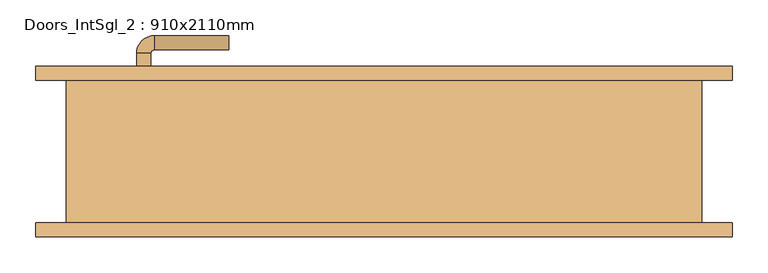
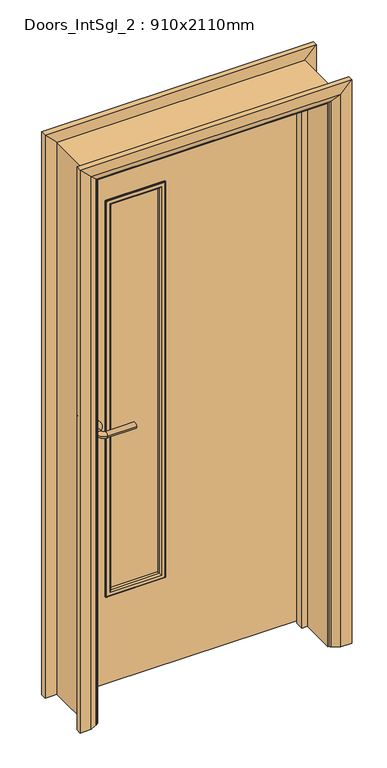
"""IFC4 building model written with IfcOpenShell, lengths in millimetres: door geometry, Doors_IntSgl_2 : 910x2110mm."""

from ifc_helpers import new_model, si_unit, point, frame, frame_2d, origin, place, context, project, spatial, polyline, circle_curve, ellipse_curve, trimmed, segment, composite_curve, outline, extrude, faceted_brep, source, transform, mapped, element, save
from ifc_brep_helpers import plane_surface, cylinder_surface, revolved_surface, advanced_brep


def doors_intsgl_2_910x2110mm_8edc93dc(model_context):
    return source(origin(), model_context, "Body", "SolidModel", [
        advanced_brep(
        [(-348.0, 54.0, 1000.0), (-328.0, 54.0, 1000.0), (-328.0, 24.0, 1000.0), (-348.0, 24.0, 1000.0), (-323.0, 19.0, 1000.0), (-323.0, -1.0, 1000.0), (-218.0, -1.0, 1000.0), (-218.0, 19.0, 1000.0)],
        [
            (0, 1, circle_curve(frame((-338.0, 54.0, 1000.0), z_axis=(0.0, 1.0, 0.0), x_axis=(1.0, 0.0, 0.0)), 10.0)),
            (1, 0, circle_curve(frame((-338.0, 54.0, 1000.0), z_axis=(0.0, 1.0, 0.0), x_axis=(1.0, 0.0, 0.0)), 10.0)),
            (1, 2),
            (2, 3, circle_curve(frame((-338.0, 24.0, 1000.0), z_axis=(0.0, 1.0, 0.0), x_axis=(1.0, 0.0, 0.0)), 10.0)),
            (3, 0),
            (3, 2, circle_curve(frame((-338.0, 24.0, 1000.0), z_axis=(0.0, 1.0, 0.0), x_axis=(1.0, 0.0, 0.0)), 10.0)),
            (4, 5, circle_curve(frame((-323.0, 9.0, 1000.0), z_axis=(-1.0, 0.0, 0.0), x_axis=(0.0, 1.0, 0.0)), 10.0)),
            (5, 3, circle_curve(frame((-323.0, 24.0, 1000.0), z_axis=(0.0, 0.0, -1.0), x_axis=(-1.0, 0.0, 0.0)), 25.0)),
            (2, 4, circle_curve(frame((-323.0, 24.0, 1000.0), z_axis=(0.0, 0.0, 1.0), x_axis=(-1.0, 0.0, 0.0)), 5.0)),
            (5, 4, circle_curve(frame((-323.0, 9.0, 1000.0), z_axis=(-1.0, 0.0, 0.0), x_axis=(0.0, 1.0, 0.0)), 10.0)),
            (6, 7, circle_curve(frame((-218.0, 9.0, 1000.0), z_axis=(1.0, 0.0, 0.0), x_axis=(0.0, 1.0, 0.0)), 10.0)),
            (7, 6, circle_curve(frame((-218.0, 9.0, 1000.0), z_axis=(1.0, 0.0, 0.0), x_axis=(0.0, 1.0, 0.0)), 10.0)),
            (4, 7),
            (6, 5),
        ],
        [
            plane_surface(frame((-338.0, 54.0, 1000.0), z_axis=(0.0, 1.0, 0.0), x_axis=(0.0, 0.0, 1.0))),
            cylinder_surface(frame((-338.0, 54.0, 1000.0), z_axis=(0.0, 1.0, 0.0), x_axis=(1.0, 0.0, 0.0)), 10.0),
            revolved_surface(trimmed(ellipse_curve(frame((-338.0, 24.0, 1000.0), z_axis=(0.0, -1.0, 0.0), x_axis=(1.0, 0.0, 0.0)), 10.0, 10.0), [point((-348.0, 24.0, 1000.0))], [point((-328.0, 24.0, 1000.0))], True, "CARTESIAN"), (-323.0, 24.0, 1000.0), (0.0, 0.0, -1.0)),
            revolved_surface(trimmed(ellipse_curve(frame((-338.0, 24.0, 1000.0), z_axis=(0.0, -1.0, 0.0), x_axis=(1.0, 0.0, 0.0)), 10.0, 10.0), [point((-328.0, 24.0, 1000.0))], [point((-348.0, 24.0, 1000.0))], True, "CARTESIAN"), (-323.0, 24.0, 1000.0), (0.0, 0.0, -1.0)),
            plane_surface(frame((-218.0, 9.0, 1000.0), z_axis=(1.0, 0.0, 0.0), x_axis=(0.0, 0.0, 1.0))),
            cylinder_surface(frame((-323.0, 9.0, 1000.0), z_axis=(-1.0, 0.0, 0.0), x_axis=(0.0, 1.0, 0.0)), 10.0),
        ],
        [
            (0, [[1, 2]]),
            (1, [[3, 4, 5, -2]]),
            (1, [[-5, 6, -3, -1]]),
            (2, [[7, 8, -4, 9]]),
            (3, [[10, -9, -6, -8]]),
            (4, [[11, 12]]),
            (5, [[13, -11, 14, -7]]),
            (5, [[-14, -12, -13, -10]]),
        ],
    ),
        extrude(outline(composite_curve([segment(trimmed(circle_curve(frame_2d((1000.0, -340.5)), 30.0), [point((1000.0, -370.5))], [point((1000.0, -310.5))], False, "CARTESIAN"), True, "CONTINUOUS"), segment(trimmed(circle_curve(frame_2d((1000.0, -340.5)), 30.0), [point((1000.0, -310.5))], [point((1000.0, -370.5))], False, "CARTESIAN"), True, "CONTINUOUS")], self_intersect=False)), frame((0.0, 54.0, 0.0), z_axis=(0.0, 1.0, 0.0), x_axis=(0.0, 0.0, 1.0)), (0.0, 0.0, 1.0), 8.0),
        advanced_brep(
        [(-348.0, 108.0, 1000.0), (-328.0, 108.0, 1000.0), (-348.0, 138.0, 1000.0), (-328.0, 138.0, 1000.0), (-323.0, 143.0, 1000.0), (-323.0, 163.0, 1000.0), (-218.0, 163.0, 1000.0), (-218.0, 143.0, 1000.0)],
        [
            (0, 1, circle_curve(frame((-338.0, 108.0, 1000.0), z_axis=(0.0, -1.0, 0.0), x_axis=(1.0, 0.0, 0.0)), 10.0)),
            (1, 0, circle_curve(frame((-338.0, 108.0, 1000.0), z_axis=(0.0, -1.0, 0.0), x_axis=(1.0, 0.0, 0.0)), 10.0)),
            (0, 2),
            (2, 3, circle_curve(frame((-338.0, 138.0, 1000.0), z_axis=(0.0, -1.0, 0.0), x_axis=(1.0, 0.0, 0.0)), 10.0)),
            (3, 1),
            (3, 2, circle_curve(frame((-338.0, 138.0, 1000.0), z_axis=(0.0, -1.0, 0.0), x_axis=(1.0, 0.0, 0.0)), 10.0)),
            (4, 3, circle_curve(frame((-323.0, 138.0, 1000.0), z_axis=(0.0, 0.0, 1.0), x_axis=(-1.0, 0.0, 0.0)), 5.0)),
            (2, 5, circle_curve(frame((-323.0, 138.0, 1000.0), z_axis=(0.0, 0.0, -1.0), x_axis=(-1.0, 0.0, 0.0)), 25.0)),
            (5, 4, circle_curve(frame((-323.0, 153.0, 1000.0), z_axis=(-1.0, 0.0, 0.0), x_axis=(0.0, -1.0, 0.0)), 10.0)),
            (4, 5, circle_curve(frame((-323.0, 153.0, 1000.0), z_axis=(-1.0, 0.0, 0.0), x_axis=(0.0, -1.0, 0.0)), 10.0)),
            (6, 7, circle_curve(frame((-218.0, 153.0, 1000.0), z_axis=(1.0, 0.0, 0.0), x_axis=(0.0, -1.0, 0.0)), 10.0)),
            (7, 6, circle_curve(frame((-218.0, 153.0, 1000.0), z_axis=(1.0, 0.0, 0.0), x_axis=(0.0, -1.0, 0.0)), 10.0)),
            (5, 6),
            (7, 4),
        ],
        [
            plane_surface(frame((-338.0, 108.0, 1000.0), z_axis=(0.0, -1.0, 0.0), x_axis=(0.0, 0.0, 1.0))),
            cylinder_surface(frame((-338.0, 108.0, 1000.0), z_axis=(0.0, -1.0, 0.0), x_axis=(1.0, 0.0, 0.0)), 10.0),
            revolved_surface(trimmed(ellipse_curve(frame((-338.0, 138.0, 1000.0), z_axis=(0.0, -1.0, 0.0), x_axis=(1.0, 0.0, 0.0)), 10.0, 10.0), [point((-348.0, 138.0, 1000.0))], [point((-328.0, 138.0, 1000.0))], True, "CARTESIAN"), (-323.0, 138.0, 1000.0), (0.0, 0.0, -1.0)),
            revolved_surface(trimmed(ellipse_curve(frame((-338.0, 138.0, 1000.0), z_axis=(0.0, -1.0, 0.0), x_axis=(1.0, 0.0, 0.0)), 10.0, 10.0), [point((-328.0, 138.0, 1000.0))], [point((-348.0, 138.0, 1000.0))], True, "CARTESIAN"), (-323.0, 138.0, 1000.0), (0.0, 0.0, -1.0)),
            plane_surface(frame((-218.0, 153.0, 1000.0), z_axis=(1.0, 0.0, 0.0), x_axis=(0.0, 0.0, 1.0))),
            cylinder_surface(frame((-323.0, 153.0, 1000.0), z_axis=(-1.0, 0.0, 0.0), x_axis=(0.0, -1.0, 0.0)), 10.0),
        ],
        [
            (0, [[1, 2]]),
            (1, [[-1, 3, 4, 5]]),
            (1, [[-2, -5, 6, -3]]),
            (2, [[7, -4, 8, 9]]),
            (3, [[-8, -6, -7, 10]]),
            (4, [[11, 12]]),
            (5, [[-9, 13, -12, 14]]),
            (5, [[-10, -14, -11, -13]]),
        ],
    ),
        extrude(outline(composite_curve([segment(trimmed(circle_curve(frame_2d((1000.0, -340.5)), 30.0), [point((1000.0, -370.5))], [point((1000.0, -310.5))], False, "CARTESIAN"), True, "CONTINUOUS"), segment(trimmed(circle_curve(frame_2d((1000.0, -340.5)), 30.0), [point((1000.0, -310.5))], [point((1000.0, -370.5))], False, "CARTESIAN"), True, "CONTINUOUS")], self_intersect=False)), frame((0.0, 100.0, 0.0), z_axis=(0.0, 1.0, 0.0), x_axis=(0.0, 0.0, 1.0)), (0.0, 0.0, 1.0), 8.0),
        extrude(outline(polyline([(2068.0, -413.0), (8.0, -413.0), (8.0, 413.0), (2068.0, 413.0), (2068.0, -413.0)]), holes=[polyline([(1843.0, -88.0), (350.0, -88.0), (350.0, -288.0), (1843.0, -288.0), (1843.0, -88.0)])]), frame((0.0, 62.0, 0.0), z_axis=(0.0, 1.0, 0.0), x_axis=(0.0, 0.0, 1.0)), (0.0, 0.0, 1.0), 38.0),
        extrude(outline(polyline([(0.0, -415.0), (0.0, -396.0), (2051.0, -396.0), (2051.0, 396.0), (0.0, 396.0), (0.0, 415.0), (2070.0, 415.0), (2070.0, -415.0), (0.0, -415.0)])), frame((0.0, 28.0, 0.0), z_axis=(0.0, 1.0, 0.0), x_axis=(0.0, 0.0, 1.0)), (0.0, 0.0, 1.0), 32.0),
        advanced_brep(
        [(-490.0, 120.0, 0.0), (-450.0, 120.0, 0.0), (-424.0, 106.0, 0.0), (-420.0, 100.0, 0.0), (-490.0, 100.0, 0.0), (-490.0, 120.0, 2145.0), (-450.0, 120.0, 2105.0), (-424.0, 106.0, 2079.0), (-420.0, 100.0, 2075.0), (-490.0, 100.0, 2145.0), (490.0, 120.0, 0.0), (490.0, 100.0, 0.0), (420.0, 100.0, 0.0), (424.0, 106.0, 0.0), (450.0, 120.0, 0.0), (490.0, 120.0, 2145.0), (490.0, 100.0, 2145.0), (420.0, 100.0, 2075.0), (424.0, 106.0, 2079.0), (450.0, 120.0, 2105.0)],
        [
            (0, 1),
            (1, 2),
            (2, 3, circle_curve(frame((-428.0, 99.0, 0.0), z_axis=(0.0, 0.0, -1.0), x_axis=(-1.0, 0.0, 0.0)), 8.0622577)),
            (3, 4),
            (4, 0),
            (0, 5),
            (5, 6),
            (6, 1),
            (6, 7),
            (7, 2),
            (7, 8, ellipse_curve(frame((-428.0, 99.0, 2083.0), z_axis=(-0.7071067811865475, 0.0, -0.7071067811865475), x_axis=(0.7071067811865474, 0.0, -0.7071067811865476)), 11.4017543, 8.0622577)),
            (8, 3),
            (8, 9),
            (9, 4),
            (9, 5),
            (10, 11),
            (11, 12),
            (12, 13, circle_curve(frame((428.0, 99.0, 0.0), z_axis=(0.0, 0.0, -1.0), x_axis=(1.0, 0.0, 0.0)), 8.0622577)),
            (13, 14),
            (14, 10),
            (15, 16),
            (16, 11),
            (10, 15),
            (16, 17),
            (17, 12),
            (17, 18, ellipse_curve(frame((428.0, 99.0, 2083.0), z_axis=(0.7071067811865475, 0.0, -0.7071067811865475), x_axis=(0.7071067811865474, 0.0, 0.7071067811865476)), 11.4017543, 8.0622577)),
            (18, 13),
            (18, 19),
            (19, 14),
            (19, 15),
            (5, 15),
            (19, 6),
            (18, 7),
            (17, 8),
            (16, 9),
        ],
        [
            plane_surface(frame((-420.0, 27.1989011, 0.0), z_axis=(0.0, 0.0, -1.0), x_axis=(1.0, 0.0, 0.0))),
            plane_surface(frame((-490.0, 120.0, 0.0), z_axis=(0.0, 1.0, 0.0), x_axis=(0.0, 0.0, 1.0))),
            plane_surface(frame((-450.0, 120.0, 0.0), z_axis=(0.4740998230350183, 0.8804710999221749, 0.0), x_axis=(0.0, 0.0, 1.0))),
            cylinder_surface(frame((-428.0, 99.0, 0.0), z_axis=(0.0, 0.0, -1.0), x_axis=(-1.0, 0.0, 0.0)), 8.0622577),
            plane_surface(frame((-420.0, 100.0, 0.0), z_axis=(0.0, -1.0, 0.0), x_axis=(0.0, 0.0, 1.0))),
            plane_surface(frame((-490.0, 100.0, 0.0), z_axis=(-1.0, 0.0, 0.0), x_axis=(0.0, 0.0, 1.0))),
            plane_surface(frame((420.0, 27.1989011, 0.0), z_axis=(0.0, 0.0, -1.0), x_axis=(-1.0, 0.0, 0.0))),
            plane_surface(frame((490.0, 100.0, 2145.0), z_axis=(1.0, 0.0, 0.0), x_axis=(0.0, 0.0, -1.0))),
            plane_surface(frame((420.0, 100.0, 2075.0), z_axis=(0.0, -1.0, 0.0), x_axis=(0.0, 0.0, -1.0))),
            cylinder_surface(frame((428.0, 99.0, 2075.0), z_axis=(0.0, 0.0, 1.0), x_axis=(1.0, 0.0, 0.0)), 8.0622577),
            plane_surface(frame((450.0, 120.0, 2105.0), z_axis=(-0.4740998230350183, 0.8804710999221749, 0.0), x_axis=(0.0, 0.0, -1.0))),
            plane_surface(frame((490.0, 120.0, 2145.0), z_axis=(0.0, 1.0, 0.0), x_axis=(0.0, 0.0, -1.0))),
            plane_surface(frame((-490.0, 120.0, 2145.0), z_axis=(0.0, 1.0, 0.0), x_axis=(1.0, 0.0, 0.0))),
            plane_surface(frame((-450.0, 120.0, 2105.0), z_axis=(0.0, 0.8804710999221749, -0.4740998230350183), x_axis=(1.0, 0.0, 0.0))),
            cylinder_surface(frame((-420.0, 99.0, 2083.0), z_axis=(-1.0, 0.0, 0.0), x_axis=(0.0, 0.0, 1.0)), 8.0622577),
            plane_surface(frame((-420.0, 100.0, 2075.0), z_axis=(0.0, -1.0, 0.0), x_axis=(1.0, 0.0, 0.0))),
            plane_surface(frame((-490.0, 100.0, 2145.0), z_axis=(0.0, 0.0, 1.0), x_axis=(1.0, 0.0, 0.0))),
        ],
        [
            (0, [[1, 2, 3, 4, 5]]),
            (1, [[-1, 6, 7, 8]]),
            (2, [[-2, -8, 9, 10]]),
            (3, [[-3, -10, 11, 12]]),
            (4, [[-4, -12, 13, 14]]),
            (5, [[-5, -14, 15, -6]]),
            (6, [[16, 17, 18, 19, 20]]),
            (7, [[21, 22, -16, 23]]),
            (8, [[24, 25, -17, -22]]),
            (9, [[26, 27, -18, -25]]),
            (10, [[28, 29, -19, -27]]),
            (11, [[30, -23, -20, -29]]),
            (12, [[-7, 31, -30, 32]]),
            (13, [[-9, -32, -28, 33]]),
            (14, [[-11, -33, -26, 34]]),
            (15, [[-13, -34, -24, 35]]),
            (16, [[-15, -35, -21, -31]]),
        ],
    ),
        advanced_brep(
        [(-490.0, -120.0, 0.0), (-490.0, -100.0, 0.0), (-420.0, -100.0, 0.0), (-424.0, -106.0, 0.0), (-450.0, -120.0, 0.0), (-490.0, -120.0, 2145.0), (-490.0, -100.0, 2145.0), (-420.0, -100.0, 2075.0), (-424.0, -106.0, 2079.0), (-450.0, -120.0, 2105.0), (490.0, -120.0, 0.0), (450.0, -120.0, 0.0), (424.0, -106.0, 0.0), (420.0, -100.0, 0.0), (490.0, -100.0, 0.0), (490.0, -120.0, 2145.0), (450.0, -120.0, 2105.0), (424.0, -106.0, 2079.0), (420.0, -100.0, 2075.0), (490.0, -100.0, 2145.0)],
        [
            (0, 1),
            (1, 2),
            (2, 3, circle_curve(frame((-428.0, -99.0, 0.0), z_axis=(0.0, 0.0, -1.0), x_axis=(-1.0, 0.0, 0.0)), 8.0622577)),
            (3, 4),
            (4, 0),
            (0, 5),
            (5, 6),
            (6, 1),
            (6, 7),
            (7, 2),
            (7, 8, ellipse_curve(frame((-428.0, -99.0, 2083.0), z_axis=(-0.7071067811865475, 0.0, -0.7071067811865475), x_axis=(0.7071067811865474, 0.0, -0.7071067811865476)), 11.4017543, 8.0622577)),
            (8, 3),
            (8, 9),
            (9, 4),
            (9, 5),
            (10, 11),
            (11, 12),
            (12, 13, circle_curve(frame((428.0, -99.0, 0.0), z_axis=(0.0, 0.0, -1.0), x_axis=(1.0, 0.0, 0.0)), 8.0622577)),
            (13, 14),
            (14, 10),
            (15, 16),
            (16, 11),
            (10, 15),
            (16, 17),
            (17, 12),
            (17, 18, ellipse_curve(frame((428.0, -99.0, 2083.0), z_axis=(0.7071067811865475, 0.0, -0.7071067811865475), x_axis=(0.7071067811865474, 0.0, 0.7071067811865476)), 11.4017543, 8.0622577)),
            (18, 13),
            (18, 19),
            (19, 14),
            (19, 15),
            (5, 15),
            (19, 6),
            (18, 7),
            (17, 8),
            (16, 9),
        ],
        [
            plane_surface(frame((-420.0, -172.8010989, 0.0), z_axis=(0.0, 0.0, -1.0), x_axis=(1.0, 0.0, 0.0))),
            plane_surface(frame((-490.0, -120.0, 0.0), z_axis=(-1.0, 0.0, 0.0), x_axis=(0.0, 0.0, 1.0))),
            plane_surface(frame((-490.0, -100.0, 0.0), z_axis=(0.0, 1.0, 0.0), x_axis=(0.0, 0.0, 1.0))),
            cylinder_surface(frame((-428.0, -99.0, 0.0), z_axis=(0.0, 0.0, -1.0), x_axis=(-1.0, 0.0, 0.0)), 8.0622577),
            plane_surface(frame((-424.0, -106.0, 0.0), z_axis=(0.4740998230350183, -0.8804710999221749, 0.0), x_axis=(0.0, 0.0, 1.0))),
            plane_surface(frame((-450.0, -120.0, 0.0), z_axis=(0.0, -1.0, 0.0), x_axis=(0.0, 0.0, 1.0))),
            plane_surface(frame((420.0, -172.8010989, 0.0), z_axis=(0.0, 0.0, -1.0), x_axis=(-1.0, 0.0, 0.0))),
            plane_surface(frame((450.0, -120.0, 2105.0), z_axis=(0.0, -1.0, 0.0), x_axis=(0.0, 0.0, -1.0))),
            plane_surface(frame((424.0, -106.0, 2079.0), z_axis=(-0.4740998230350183, -0.8804710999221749, 0.0), x_axis=(0.0, 0.0, -1.0))),
            cylinder_surface(frame((428.0, -99.0, 2075.0), z_axis=(0.0, 0.0, 1.0), x_axis=(1.0, 0.0, 0.0)), 8.0622577),
            plane_surface(frame((490.0, -100.0, 2145.0), z_axis=(0.0, 1.0, 0.0), x_axis=(0.0, 0.0, -1.0))),
            plane_surface(frame((490.0, -120.0, 2145.0), z_axis=(1.0, 0.0, 0.0), x_axis=(0.0, 0.0, -1.0))),
            plane_surface(frame((-490.0, -120.0, 2145.0), z_axis=(0.0, 0.0, 1.0), x_axis=(1.0, 0.0, 0.0))),
            plane_surface(frame((-490.0, -100.0, 2145.0), z_axis=(0.0, 1.0, 0.0), x_axis=(1.0, 0.0, 0.0))),
            cylinder_surface(frame((-420.0, -99.0, 2083.0), z_axis=(-1.0, 0.0, 0.0), x_axis=(0.0, 0.0, 1.0)), 8.0622577),
            plane_surface(frame((-424.0, -106.0, 2079.0), z_axis=(0.0, -0.8804710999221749, -0.4740998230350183), x_axis=(1.0, 0.0, 0.0))),
            plane_surface(frame((-450.0, -120.0, 2105.0), z_axis=(0.0, -1.0, 0.0), x_axis=(1.0, 0.0, 0.0))),
        ],
        [
            (0, [[1, 2, 3, 4, 5]]),
            (1, [[-1, 6, 7, 8]]),
            (2, [[-2, -8, 9, 10]]),
            (3, [[-3, -10, 11, 12]]),
            (4, [[-4, -12, 13, 14]]),
            (5, [[-5, -14, 15, -6]]),
            (6, [[16, 17, 18, 19, 20]]),
            (7, [[21, 22, -16, 23]]),
            (8, [[24, 25, -17, -22]]),
            (9, [[26, 27, -18, -25]]),
            (10, [[28, 29, -19, -27]]),
            (11, [[30, -23, -20, -29]]),
            (12, [[-7, 31, -30, 32]]),
            (13, [[-9, -32, -28, 33]]),
            (14, [[-11, -33, -26, 34]]),
            (15, [[-13, -34, -24, 35]]),
            (16, [[-15, -35, -21, -31]]),
        ],
    ),
        faceted_brep([(-415.0, 100.0, 0.0), (-415.0, -100.0, 0.0), (-447.0, -100.0, 0.0), (-447.0, 100.0, 0.0), (-415.0, 100.0, 2070.0), (-415.0, -100.0, 2070.0), (-447.0, -100.0, 2102.0), (-447.0, 100.0, 2102.0), (415.0, 100.0, 0.0), (447.0, 100.0, 0.0), (447.0, -100.0, 0.0), (415.0, -100.0, 0.0), (415.0, 100.0, 2070.0), (447.0, 100.0, 2102.0), (447.0, -100.0, 2102.0), (415.0, -100.0, 2070.0)], [[[0, 1, 2, 3]], [[1, 0, 4, 5]], [[2, 1, 5, 6]], [[3, 2, 6, 7]], [[0, 3, 7, 4]], [[8, 9, 10, 11]], [[12, 13, 9, 8]], [[13, 14, 10, 9]], [[14, 15, 11, 10]], [[15, 12, 8, 11]], [[5, 4, 12, 15]], [[6, 5, 15, 14]], [[7, 6, 14, 13]], [[4, 7, 13, 12]]]),
        extrude(outline(polyline([(-288.0, 90.0), (-88.0, 90.0), (-88.0, 72.0), (-288.0, 72.0), (-288.0, 90.0)])), frame((0.0, 0.0, 350.0), z_axis=(0.0, 0.0, 1.0), x_axis=(1.0, 0.0, 0.0)), (0.0, 0.0, 1.0), 1493.0),
        advanced_brep(
        [(-88.0, 72.0, 1843.0), (-88.0, 62.0, 1843.0), (-88.0, 62.0, 350.0), (-88.0, 72.0, 350.0), (-100.0, 61.0, 1831.0), (-100.0, 72.0, 1831.0), (-100.0, 72.0, 362.0), (-100.0, 61.0, 362.0), (-95.0, 56.0, 1836.0), (-95.0, 56.0, 357.0), (-80.0, 58.0, 1851.0), (-82.0, 56.0, 1849.0), (-82.0, 56.0, 344.0), (-80.0, 58.0, 342.0), (-80.0, 62.0, 1851.0), (-80.0, 62.0, 342.0), (-288.0, 62.0, 350.0), (-288.0, 72.0, 350.0), (-276.0, 72.0, 362.0), (-276.0, 61.0, 362.0), (-281.0, 56.0, 357.0), (-294.0, 56.0, 344.0), (-296.0, 58.0, 342.0), (-296.0, 62.0, 342.0), (-288.0, 62.0, 1843.0), (-288.0, 72.0, 1843.0), (-276.0, 72.0, 1831.0), (-276.0, 61.0, 1831.0), (-281.0, 56.0, 1836.0), (-294.0, 56.0, 1849.0), (-296.0, 58.0, 1851.0), (-296.0, 62.0, 1851.0)],
        [
            (0, 1),
            (1, 2),
            (2, 3),
            (3, 0),
            (4, 5),
            (5, 6),
            (6, 7),
            (7, 4),
            (8, 4, ellipse_curve(frame((-95.0, 61.0, 1836.0), z_axis=(0.7071067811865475, 0.0, -0.7071067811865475), x_axis=(0.7071067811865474, 0.0, 0.7071067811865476)), 7.0710678, 5.0)),
            (7, 9, ellipse_curve(frame((-95.0, 61.0, 357.0), z_axis=(0.7071067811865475, 0.0, 0.7071067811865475), x_axis=(-0.7071067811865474, 0.0, 0.7071067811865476)), 7.0710678, 5.0)),
            (9, 8),
            (10, 11, ellipse_curve(frame((-82.0, 58.0, 1849.0), z_axis=(0.7071067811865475, 0.0, -0.7071067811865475), x_axis=(0.7071067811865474, 0.0, 0.7071067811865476)), 2.8284271, 2.0)),
            (11, 12),
            (12, 13, ellipse_curve(frame((-82.0, 58.0, 344.0), z_axis=(0.7071067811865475, 0.0, 0.7071067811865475), x_axis=(-0.7071067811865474, 0.0, 0.7071067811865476)), 2.8284271, 2.0)),
            (13, 10),
            (14, 10),
            (13, 15),
            (15, 14),
            (2, 16),
            (16, 17),
            (17, 3),
            (6, 18),
            (18, 19),
            (19, 7),
            (19, 20, ellipse_curve(frame((-281.0, 61.0, 357.0), z_axis=(0.7071067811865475, 0.0, -0.7071067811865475), x_axis=(0.7071067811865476, 0.0, 0.7071067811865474)), 7.0710678, 5.0)),
            (20, 9),
            (12, 21),
            (21, 22, ellipse_curve(frame((-294.0, 58.0, 344.0), z_axis=(0.7071067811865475, 0.0, -0.7071067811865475), x_axis=(0.7071067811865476, 0.0, 0.7071067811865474)), 2.8284271, 2.0)),
            (22, 13),
            (22, 23),
            (23, 15),
            (16, 24),
            (24, 25),
            (25, 17),
            (18, 26),
            (26, 27),
            (27, 19),
            (27, 28, ellipse_curve(frame((-281.0, 61.0, 1836.0), z_axis=(-0.7071067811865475, 0.0, -0.7071067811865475), x_axis=(0.7071067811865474, 0.0, -0.7071067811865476)), 7.0710678, 5.0)),
            (28, 20),
            (21, 29),
            (29, 30, ellipse_curve(frame((-294.0, 58.0, 1849.0), z_axis=(-0.7071067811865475, 0.0, -0.7071067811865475), x_axis=(0.7071067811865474, 0.0, -0.7071067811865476)), 2.8284271, 2.0)),
            (30, 22),
            (30, 31),
            (31, 23),
            (31, 14),
            (1, 24),
            (0, 25),
            (5, 26),
            (4, 27),
            (8, 28),
            (11, 29),
            (10, 30),
        ],
        [
            plane_surface(frame((-88.0, 62.0, 1843.0), z_axis=(1.0, 0.0, 0.0), x_axis=(0.0, 0.0, -1.0))),
            plane_surface(frame((-100.0, 72.0, 1831.0), z_axis=(-1.0, 0.0, 0.0), x_axis=(0.0, 0.0, -1.0))),
            cylinder_surface(frame((-95.0, 61.0, 1843.0), z_axis=(0.0, 0.0, 1.0), x_axis=(1.0, 0.0, 0.0)), 5.0),
            cylinder_surface(frame((-82.0, 58.0, 1843.0), z_axis=(0.0, 0.0, 1.0), x_axis=(1.0, 0.0, 0.0)), 2.0),
            plane_surface(frame((-80.0, 58.0, 1851.0), z_axis=(1.0, 0.0, 0.0), x_axis=(0.0, 0.0, -1.0))),
            plane_surface(frame((-88.0, 62.0, 350.0), z_axis=(0.0, 0.0, -1.0), x_axis=(-1.0, 0.0, 0.0))),
            plane_surface(frame((-100.0, 72.0, 362.0), z_axis=(0.0, 0.0, 1.0), x_axis=(-1.0, 0.0, 0.0))),
            cylinder_surface(frame((-88.0, 61.0, 357.0), z_axis=(1.0, 0.0, 0.0), x_axis=(0.0, 0.0, -1.0)), 5.0),
            cylinder_surface(frame((-88.0, 58.0, 344.0), z_axis=(1.0, 0.0, 0.0), x_axis=(0.0, 0.0, -1.0)), 2.0),
            plane_surface(frame((-80.0, 58.0, 342.0), z_axis=(0.0, 0.0, -1.0), x_axis=(-1.0, 0.0, 0.0))),
            plane_surface(frame((-288.0, 62.0, 350.0), z_axis=(-1.0, 0.0, 0.0), x_axis=(0.0, 0.0, 1.0))),
            plane_surface(frame((-276.0, 72.0, 362.0), z_axis=(1.0, 0.0, 0.0), x_axis=(0.0, 0.0, 1.0))),
            cylinder_surface(frame((-281.0, 61.0, 350.0), z_axis=(0.0, 0.0, -1.0), x_axis=(-1.0, 0.0, 0.0)), 5.0),
            cylinder_surface(frame((-294.0, 58.0, 350.0), z_axis=(0.0, 0.0, -1.0), x_axis=(-1.0, 0.0, 0.0)), 2.0),
            plane_surface(frame((-296.0, 58.0, 342.0), z_axis=(-1.0, 0.0, 0.0), x_axis=(0.0, 0.0, 1.0))),
            plane_surface(frame((-296.0, 62.0, 1851.0), z_axis=(0.0, 1.0, 0.0), x_axis=(1.0, 0.0, 0.0))),
            plane_surface(frame((-288.0, 62.0, 1843.0), z_axis=(0.0, 0.0, 1.0), x_axis=(1.0, 0.0, 0.0))),
            plane_surface(frame((-288.0, 72.0, 1843.0), z_axis=(0.0, 1.0, 0.0), x_axis=(1.0, 0.0, 0.0))),
            plane_surface(frame((-276.0, 72.0, 1831.0), z_axis=(0.0, 0.0, -1.0), x_axis=(1.0, 0.0, 0.0))),
            cylinder_surface(frame((-288.0, 61.0, 1836.0), z_axis=(-1.0, 0.0, 0.0), x_axis=(0.0, 0.0, 1.0)), 5.0),
            plane_surface(frame((-281.0, 56.0, 1836.0), z_axis=(0.0, -1.0, 0.0), x_axis=(1.0, 0.0, 0.0))),
            cylinder_surface(frame((-288.0, 58.0, 1849.0), z_axis=(-1.0, 0.0, 0.0), x_axis=(0.0, 0.0, 1.0)), 2.0),
            plane_surface(frame((-296.0, 58.0, 1851.0), z_axis=(0.0, 0.0, 1.0), x_axis=(1.0, 0.0, 0.0))),
        ],
        [
            (0, [[1, 2, 3, 4]]),
            (1, [[5, 6, 7, 8]]),
            (2, [[9, -8, 10, 11]]),
            (3, [[12, 13, 14, 15]]),
            (4, [[16, -15, 17, 18]]),
            (5, [[-3, 19, 20, 21]]),
            (6, [[-7, 22, 23, 24]]),
            (7, [[-10, -24, 25, 26]]),
            (8, [[-14, 27, 28, 29]]),
            (9, [[-17, -29, 30, 31]]),
            (10, [[-20, 32, 33, 34]]),
            (11, [[-23, 35, 36, 37]]),
            (12, [[-25, -37, 38, 39]]),
            (13, [[-28, 40, 41, 42]]),
            (14, [[-30, -42, 43, 44]]),
            (15, [[-31, -44, 45, -18], [46, -32, -19, -2]]),
            (16, [[-33, -46, -1, 47]]),
            (17, [[-21, -34, -47, -4], [48, -35, -22, -6]]),
            (18, [[-36, -48, -5, 49]]),
            (19, [[-38, -49, -9, 50]]),
            (20, [[51, -40, -27, -13], [-26, -39, -50, -11]]),
            (21, [[-41, -51, -12, 52]]),
            (22, [[-43, -52, -16, -45]]),
        ],
    ),
        advanced_brep(
        [(-80.0, 104.0, 1851.0), (-80.0, 100.0, 1851.0), (-80.0, 100.0, 342.0), (-80.0, 104.0, 342.0), (-82.0, 106.0, 1849.0), (-82.0, 106.0, 344.0), (-100.0, 101.0, 1831.0), (-95.0, 106.0, 1836.0), (-95.0, 106.0, 357.0), (-100.0, 101.0, 362.0), (-100.0, 90.0, 1831.0), (-100.0, 90.0, 362.0), (-88.0, 100.0, 1843.0), (-88.0, 90.0, 1843.0), (-88.0, 90.0, 350.0), (-88.0, 100.0, 350.0), (-296.0, 100.0, 342.0), (-296.0, 104.0, 342.0), (-294.0, 106.0, 344.0), (-281.0, 106.0, 357.0), (-276.0, 101.0, 362.0), (-276.0, 90.0, 362.0), (-288.0, 90.0, 350.0), (-288.0, 100.0, 350.0), (-296.0, 100.0, 1851.0), (-296.0, 104.0, 1851.0), (-294.0, 106.0, 1849.0), (-281.0, 106.0, 1836.0), (-276.0, 101.0, 1831.0), (-276.0, 90.0, 1831.0), (-288.0, 90.0, 1843.0), (-288.0, 100.0, 1843.0)],
        [
            (0, 1),
            (1, 2),
            (2, 3),
            (3, 0),
            (4, 0, ellipse_curve(frame((-82.0, 104.0, 1849.0), z_axis=(0.7071067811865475, 0.0, -0.7071067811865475), x_axis=(0.7071067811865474, 0.0, 0.7071067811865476)), 2.8284271, 2.0)),
            (3, 5, ellipse_curve(frame((-82.0, 104.0, 344.0), z_axis=(0.7071067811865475, 0.0, 0.7071067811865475), x_axis=(-0.7071067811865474, 0.0, 0.7071067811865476)), 2.8284271, 2.0)),
            (5, 4),
            (6, 7, ellipse_curve(frame((-95.0, 101.0, 1836.0), z_axis=(0.7071067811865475, 0.0, -0.7071067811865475), x_axis=(0.7071067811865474, 0.0, 0.7071067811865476)), 7.0710678, 5.0)),
            (7, 8),
            (8, 9, ellipse_curve(frame((-95.0, 101.0, 357.0), z_axis=(0.7071067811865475, 0.0, 0.7071067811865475), x_axis=(-0.7071067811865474, 0.0, 0.7071067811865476)), 7.0710678, 5.0)),
            (9, 6),
            (10, 6),
            (9, 11),
            (11, 10),
            (12, 13),
            (13, 14),
            (14, 15),
            (15, 12),
            (2, 16),
            (16, 17),
            (17, 3),
            (17, 18, ellipse_curve(frame((-294.0, 104.0, 344.0), z_axis=(0.7071067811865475, 0.0, -0.7071067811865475), x_axis=(0.7071067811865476, 0.0, 0.7071067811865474)), 2.8284271, 2.0)),
            (18, 5),
            (8, 19),
            (19, 20, ellipse_curve(frame((-281.0, 101.0, 357.0), z_axis=(0.7071067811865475, 0.0, -0.7071067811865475), x_axis=(0.7071067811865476, 0.0, 0.7071067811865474)), 7.0710678, 5.0)),
            (20, 9),
            (20, 21),
            (21, 11),
            (14, 22),
            (22, 23),
            (23, 15),
            (16, 24),
            (24, 25),
            (25, 17),
            (25, 26, ellipse_curve(frame((-294.0, 104.0, 1849.0), z_axis=(-0.7071067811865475, 0.0, -0.7071067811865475), x_axis=(0.7071067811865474, 0.0, -0.7071067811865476)), 2.8284271, 2.0)),
            (26, 18),
            (19, 27),
            (27, 28, ellipse_curve(frame((-281.0, 101.0, 1836.0), z_axis=(-0.7071067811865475, 0.0, -0.7071067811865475), x_axis=(0.7071067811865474, 0.0, -0.7071067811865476)), 7.0710678, 5.0)),
            (28, 20),
            (28, 29),
            (29, 21),
            (22, 30),
            (30, 31),
            (31, 23),
            (24, 1),
            (0, 25),
            (4, 26),
            (7, 27),
            (6, 28),
            (10, 29),
            (13, 30),
            (12, 31),
        ],
        [
            plane_surface(frame((-80.0, 100.0, 1851.0), z_axis=(1.0, 0.0, 0.0), x_axis=(0.0, 0.0, -1.0))),
            cylinder_surface(frame((-82.0, 104.0, 1843.0), z_axis=(0.0, 0.0, 1.0), x_axis=(1.0, 0.0, 0.0)), 2.0),
            cylinder_surface(frame((-95.0, 101.0, 1843.0), z_axis=(0.0, 0.0, 1.0), x_axis=(1.0, 0.0, 0.0)), 5.0),
            plane_surface(frame((-100.0, 101.0, 1831.0), z_axis=(-1.0, 0.0, 0.0), x_axis=(0.0, 0.0, -1.0))),
            plane_surface(frame((-88.0, 90.0, 1843.0), z_axis=(1.0, 0.0, 0.0), x_axis=(0.0, 0.0, -1.0))),
            plane_surface(frame((-80.0, 100.0, 342.0), z_axis=(0.0, 0.0, -1.0), x_axis=(-1.0, 0.0, 0.0))),
            cylinder_surface(frame((-88.0, 104.0, 344.0), z_axis=(1.0, 0.0, 0.0), x_axis=(0.0, 0.0, -1.0)), 2.0),
            cylinder_surface(frame((-88.0, 101.0, 357.0), z_axis=(1.0, 0.0, 0.0), x_axis=(0.0, 0.0, -1.0)), 5.0),
            plane_surface(frame((-100.0, 101.0, 362.0), z_axis=(0.0, 0.0, 1.0), x_axis=(-1.0, 0.0, 0.0))),
            plane_surface(frame((-88.0, 90.0, 350.0), z_axis=(0.0, 0.0, -1.0), x_axis=(-1.0, 0.0, 0.0))),
            plane_surface(frame((-296.0, 100.0, 342.0), z_axis=(-1.0, 0.0, 0.0), x_axis=(0.0, 0.0, 1.0))),
            cylinder_surface(frame((-294.0, 104.0, 350.0), z_axis=(0.0, 0.0, -1.0), x_axis=(-1.0, 0.0, 0.0)), 2.0),
            cylinder_surface(frame((-281.0, 101.0, 350.0), z_axis=(0.0, 0.0, -1.0), x_axis=(-1.0, 0.0, 0.0)), 5.0),
            plane_surface(frame((-276.0, 101.0, 362.0), z_axis=(1.0, 0.0, 0.0), x_axis=(0.0, 0.0, 1.0))),
            plane_surface(frame((-288.0, 90.0, 350.0), z_axis=(-1.0, 0.0, 0.0), x_axis=(0.0, 0.0, 1.0))),
            plane_surface(frame((-296.0, 100.0, 1851.0), z_axis=(0.0, 0.0, 1.0), x_axis=(1.0, 0.0, 0.0))),
            cylinder_surface(frame((-288.0, 104.0, 1849.0), z_axis=(-1.0, 0.0, 0.0), x_axis=(0.0, 0.0, 1.0)), 2.0),
            plane_surface(frame((-294.0, 106.0, 1849.0), z_axis=(0.0, 1.0, 0.0), x_axis=(1.0, 0.0, 0.0))),
            cylinder_surface(frame((-288.0, 101.0, 1836.0), z_axis=(-1.0, 0.0, 0.0), x_axis=(0.0, 0.0, 1.0)), 5.0),
            plane_surface(frame((-276.0, 101.0, 1831.0), z_axis=(0.0, 0.0, -1.0), x_axis=(1.0, 0.0, 0.0))),
            plane_surface(frame((-276.0, 90.0, 1831.0), z_axis=(0.0, -1.0, 0.0), x_axis=(1.0, 0.0, 0.0))),
            plane_surface(frame((-288.0, 90.0, 1843.0), z_axis=(0.0, 0.0, 1.0), x_axis=(1.0, 0.0, 0.0))),
            plane_surface(frame((-288.0, 100.0, 1843.0), z_axis=(0.0, -1.0, 0.0), x_axis=(1.0, 0.0, 0.0))),
        ],
        [
            (0, [[1, 2, 3, 4]]),
            (1, [[5, -4, 6, 7]]),
            (2, [[8, 9, 10, 11]]),
            (3, [[12, -11, 13, 14]]),
            (4, [[15, 16, 17, 18]]),
            (5, [[-3, 19, 20, 21]]),
            (6, [[-6, -21, 22, 23]]),
            (7, [[-10, 24, 25, 26]]),
            (8, [[-13, -26, 27, 28]]),
            (9, [[-17, 29, 30, 31]]),
            (10, [[-20, 32, 33, 34]]),
            (11, [[-22, -34, 35, 36]]),
            (12, [[-25, 37, 38, 39]]),
            (13, [[-27, -39, 40, 41]]),
            (14, [[-30, 42, 43, 44]]),
            (15, [[-33, 45, -1, 46]]),
            (16, [[-35, -46, -5, 47]]),
            (17, [[-23, -36, -47, -7], [48, -37, -24, -9]]),
            (18, [[-38, -48, -8, 49]]),
            (19, [[-40, -49, -12, 50]]),
            (20, [[51, -42, -29, -16], [-28, -41, -50, -14]]),
            (21, [[-43, -51, -15, 52]]),
            (22, [[-45, -32, -19, -2], [-31, -44, -52, -18]]),
        ],
    ),
    ])


if __name__ == "__main__":
    model = new_model("IFC4")
    model_context = context("Model", 3, world=origin())
    ifc_project = project(units=[si_unit("LENGTHUNIT", "METRE", prefix="MILLI")], contexts=[model_context])
    site = spatial("IfcSite", under=ifc_project)
    building = spatial("IfcBuilding", under=site)
    placement = place(None, origin())
    doors_intsgl_2_910x2110mm_shape = doors_intsgl_2_910x2110mm_8edc93dc(model_context)
    element("IfcDoor", 1, ObjectType="Doors_IntSgl_2 : 910x2110mm", at=placement, inside=building, context=model_context, shape_type="MappedRepresentation", body=[
        mapped(doors_intsgl_2_910x2110mm_shape, transform((0.0, 0.0, 0.0), x_axis=(1.0, 0.0, 0.0), y_axis=(0.0, 1.0, 0.0), z_axis=(0.0, 0.0, 1.0))),
    ])
    save(model, "model.ifc")
